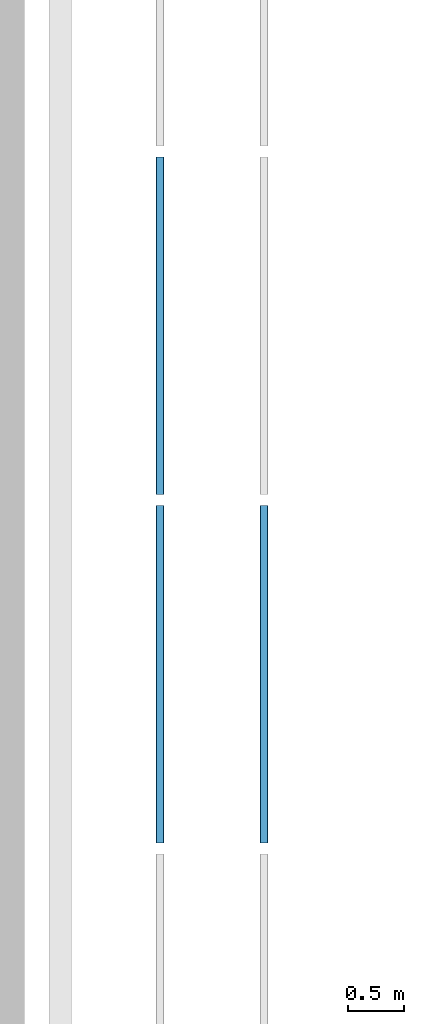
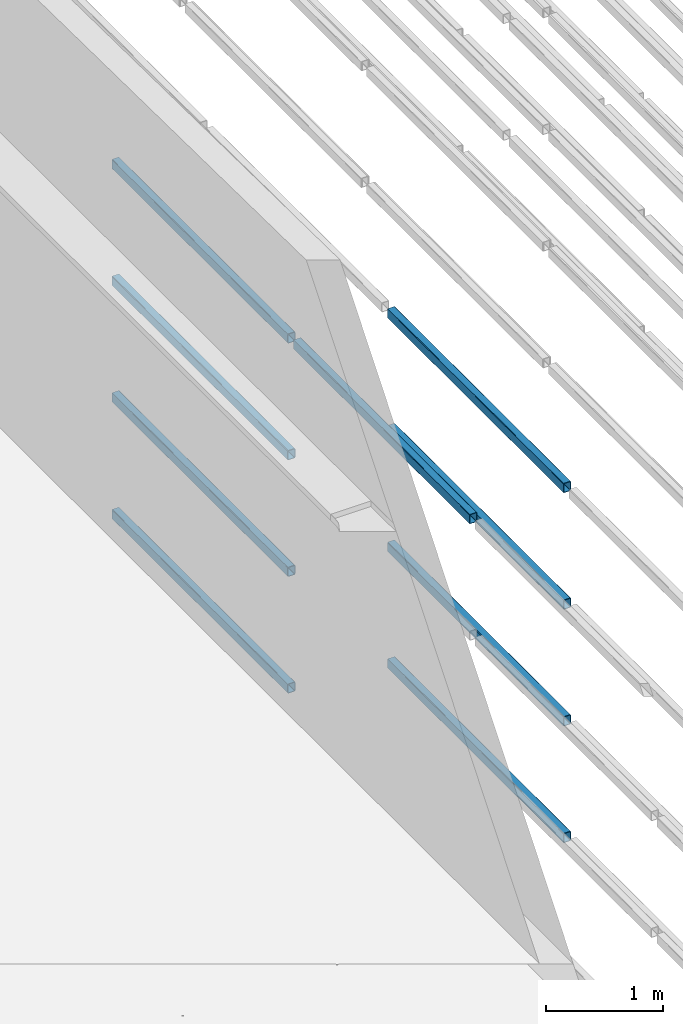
# One storey, part 12 of 290: 9 beams.
"""IFC2X3 building model written with IfcOpenShell, lengths in metres."""

from ifc_helpers import new_model, entity, si_unit, converted_unit, derived_unit, direction, frame, frame_2d, origin, place, context, subcontext, project, spatial, polyline, circle_curve, parameter, trimmed, segment, composite_curve, outline, extrude, material, type_object, element, save


model = new_model("IFC2X3")

# Units and contexts
model_context = context("Model", 3, precision=1e-05, world=origin(), true_north=direction((6.12303176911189e-17, 1.0)))
body_context = subcontext(model_context, "Body", "Model", "MODEL_VIEW")
ifc_project = project(units=[si_unit("LENGTHUNIT", "METRE"), si_unit("AREAUNIT", "SQUARE_METRE"), si_unit("VOLUMEUNIT", "CUBIC_METRE"), converted_unit("PLANEANGLEUNIT", "DEGREE", entity("IfcRatioMeasure", 0.0174532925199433), si_unit("PLANEANGLEUNIT", "RADIAN"), dimensions=[0, 0, 0, 0, 0, 0, 0]), si_unit("MASSUNIT", "GRAM", prefix="KILO"), derived_unit("MASSDENSITYUNIT", [(si_unit("MASSUNIT", "GRAM", prefix="KILO"), 1), (si_unit("LENGTHUNIT", "METRE"), -3)]), derived_unit("MOMENTOFINERTIAUNIT", [(si_unit("LENGTHUNIT", "METRE"), 4)]), si_unit("TIMEUNIT", "SECOND"), si_unit("FREQUENCYUNIT", "HERTZ"), si_unit("THERMODYNAMICTEMPERATUREUNIT", "DEGREE_CELSIUS"), derived_unit("THERMALTRANSMITTANCEUNIT", [(si_unit("MASSUNIT", "GRAM", prefix="KILO"), 1), (si_unit("THERMODYNAMICTEMPERATUREUNIT", "KELVIN"), -1), (si_unit("TIMEUNIT", "SECOND"), -3)]), derived_unit("VOLUMETRICFLOWRATEUNIT", [(si_unit("LENGTHUNIT", "METRE"), 3), (si_unit("TIMEUNIT", "SECOND"), -1)]), si_unit("ELECTRICCURRENTUNIT", "AMPERE"), si_unit("ELECTRICVOLTAGEUNIT", "VOLT"), si_unit("POWERUNIT", "WATT"), si_unit("FORCEUNIT", "NEWTON", prefix="KILO"), si_unit("ILLUMINANCEUNIT", "LUX"), si_unit("LUMINOUSFLUXUNIT", "LUMEN"), si_unit("LUMINOUSINTENSITYUNIT", "CANDELA"), derived_unit("USERDEFINED", [(si_unit("MASSUNIT", "GRAM", prefix="KILO"), -1), (si_unit("LENGTHUNIT", "METRE"), -2), (si_unit("TIMEUNIT", "SECOND"), 3), (si_unit("LUMINOUSFLUXUNIT", "LUMEN"), 1)]), derived_unit("LINEARVELOCITYUNIT", [(si_unit("LENGTHUNIT", "METRE"), 1), (si_unit("TIMEUNIT", "SECOND"), -1)]), si_unit("PRESSUREUNIT", "PASCAL"), derived_unit("USERDEFINED", [(si_unit("LENGTHUNIT", "METRE"), -2), (si_unit("MASSUNIT", "GRAM", prefix="KILO"), 1), (si_unit("TIMEUNIT", "SECOND"), -2)]), derived_unit("LINEARFORCEUNIT", [(si_unit("MASSUNIT", "GRAM", prefix="KILO"), 1), (si_unit("LENGTHUNIT", "METRE"), 1), (si_unit("TIMEUNIT", "SECOND"), -2), (si_unit("LENGTHUNIT", "METRE"), -1)]), derived_unit("PLANARFORCEUNIT", [(si_unit("MASSUNIT", "GRAM", prefix="KILO"), 1), (si_unit("LENGTHUNIT", "METRE"), 1), (si_unit("TIMEUNIT", "SECOND"), -2), (si_unit("LENGTHUNIT", "METRE"), -2)])], contexts=[model_context])

# Site, building, storey
site_placement = place(None, origin())
site = spatial("IfcSite", under=ifc_project, at=site_placement, Name="Default", CompositionType="ELEMENT")
building_placement = place(site_placement, origin())
building = spatial("IfcBuilding", under=site, at=building_placement, CompositionType="ELEMENT")
storey_placement = place(building_placement, frame((0.0, 0.0, 4.0)))
storey = spatial("IfcBuildingStorey", under=building, at=storey_placement, Name="01_OG", CompositionType="ELEMENT", Elevation=4.0)

# Beams
ifc_material = material(Name="Metall - Baustahl S235 blau")
beam_type = type_object("IfcBeamType", Name="RHS Träger (EN 10219-2):RHS 100 x 75 x 5", PredefinedType="NOTDEFINED")
beam_1_placement = place(storey_placement, frame((-206.415111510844, 36.448088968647, 2.445), z_axis=(0.0, 0.0, 1.0), x_axis=(0.0, 1.0, 0.0)))
element("IfcBeam", 1, at=beam_1_placement, inside=storey, type_object=beam_type, material=ifc_material, Name="RHS Träger (EN 10219-2):RHS 100 x 75 x 5", ObjectType="RHS Träger (EN 10219-2):RHS 100 x 75 x 5", context=body_context, shape_type="SweptSolid", body=[
    extrude(outline(composite_curve([segment(trimmed(circle_curve(frame_2d((-0.0274999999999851, -0.0399999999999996), x_axis=(1.0, 0.0)), 0.01), [parameter(180.0)], [parameter(270.0)], True, "PARAMETER"), True, "CONTINUOUS"), segment(polyline([(-0.0274999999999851, -0.0499999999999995), (0.0274999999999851, -0.0499999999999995)]), True, "CONTINUOUS"), segment(trimmed(circle_curve(frame_2d((0.0274999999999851, -0.0399999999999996), x_axis=(1.0, 0.0)), 0.01), [parameter(270.0)], [parameter(5.08888749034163e-14)], True, "PARAMETER"), True, "CONTINUOUS"), segment(polyline([(0.0375000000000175, -0.0399999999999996), (0.0375000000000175, 0.0399999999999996)]), True, "CONTINUOUS"), segment(trimmed(circle_curve(frame_2d((0.0274999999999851, 0.0399999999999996), x_axis=(1.0, 0.0)), 0.01), [parameter(360.0)], [parameter(89.9999999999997)], True, "PARAMETER"), True, "CONTINUOUS"), segment(polyline([(0.0274999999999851, 0.0500000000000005), (-0.0274999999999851, 0.0500000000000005)]), True, "CONTINUOUS"), segment(trimmed(circle_curve(frame_2d((-0.0274999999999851, 0.0399999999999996), x_axis=(1.0, 0.0)), 0.01), [parameter(90.0000000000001)], [parameter(180.0)], True, "PARAMETER"), True, "CONTINUOUS"), segment(polyline([(-0.0374999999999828, 0.0399999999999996), (-0.0374999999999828, -0.0399999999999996)]), True, "CONTINUOUS")], self_intersect=False), holes=[composite_curve([segment(polyline([(0.0274999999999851, -0.0450000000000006), (-0.0274999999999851, -0.0450000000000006)]), True, "CONTINUOUS"), segment(trimmed(circle_curve(frame_2d((-0.0274999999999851, -0.0400000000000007), x_axis=(1.0, 0.0)), 0.005), [parameter(180.0)], [parameter(270.0)], True, "PARAMETER"), False, "CONTINUOUS"), segment(polyline([(-0.0325000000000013, -0.0400000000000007), (-0.0325000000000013, 0.0399999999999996)]), True, "CONTINUOUS"), segment(trimmed(circle_curve(frame_2d((-0.0274999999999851, 0.0399999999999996), x_axis=(1.0, 0.0)), 0.005), [parameter(90.0000000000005)], [parameter(180.0)], True, "PARAMETER"), False, "CONTINUOUS"), segment(polyline([(-0.0274999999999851, 0.0449999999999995), (0.0274999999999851, 0.0449999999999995)]), True, "CONTINUOUS"), segment(trimmed(circle_curve(frame_2d((0.0274999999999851, 0.0399999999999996), x_axis=(1.0, 0.0)), 0.005), [parameter(0.0)], [parameter(90.0000000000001)], True, "PARAMETER"), False, "CONTINUOUS"), segment(polyline([(0.0325000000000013, 0.0399999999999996), (0.0325000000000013, -0.0400000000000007)]), True, "CONTINUOUS"), segment(trimmed(circle_curve(frame_2d((0.0274999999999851, -0.0400000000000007), x_axis=(1.0, 0.0)), 0.005), [parameter(270.0)], [parameter(4.07110999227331e-13)], True, "PARAMETER"), False, "CONTINUOUS")], self_intersect=False)]), frame((0.000100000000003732, 0.0375000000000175, -0.0500000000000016), z_axis=(1.0, 0.0, 0.0), x_axis=(0.0, -1.0, 0.0)), (0.0, 0.0, 1.0), 2.9998),
])
beam_2_placement = place(storey_placement, frame((-205.565111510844, 36.448088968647, -1.2), z_axis=(0.0, 0.0, 1.0), x_axis=(0.0, 1.0, 0.0)))
element("IfcBeam", 2, at=beam_2_placement, inside=storey, type_object=beam_type, material=ifc_material, Name="RHS Träger (EN 10219-2):RHS 100 x 75 x 5", ObjectType="RHS Träger (EN 10219-2):RHS 100 x 75 x 5", context=body_context, shape_type="SweptSolid", body=[
    extrude(outline(composite_curve([segment(polyline([(-0.0400000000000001, -0.0374999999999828), (0.0400000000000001, -0.0374999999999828)]), True, "CONTINUOUS"), segment(trimmed(circle_curve(frame_2d((0.0400000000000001, -0.0274999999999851), x_axis=(0.0, 1.0)), 0.01), [parameter(180.0)], [parameter(270.0)], True, "PARAMETER"), True, "CONTINUOUS"), segment(polyline([(0.05, -0.0274999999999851), (0.05, 0.0274999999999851)]), True, "CONTINUOUS"), segment(trimmed(circle_curve(frame_2d((0.0400000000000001, 0.0274999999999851), x_axis=(0.0, 1.0)), 0.01), [parameter(270.0)], [parameter(4.07110999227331e-13)], True, "PARAMETER"), True, "CONTINUOUS"), segment(polyline([(0.0400000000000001, 0.0375000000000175), (-0.0400000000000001, 0.0375000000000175)]), True, "CONTINUOUS"), segment(trimmed(circle_curve(frame_2d((-0.0400000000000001, 0.0274999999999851), x_axis=(0.0, 1.0)), 0.01), [parameter(360.0)], [parameter(90.0000000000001)], True, "PARAMETER"), True, "CONTINUOUS"), segment(polyline([(-0.05, 0.0274999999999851), (-0.05, -0.0274999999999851)]), True, "CONTINUOUS"), segment(trimmed(circle_curve(frame_2d((-0.0400000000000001, -0.0274999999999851), x_axis=(0.0, 1.0)), 0.01), [parameter(90.0000000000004)], [parameter(180.0)], True, "PARAMETER"), True, "CONTINUOUS")], self_intersect=False), holes=[composite_curve([segment(trimmed(circle_curve(frame_2d((-0.0400000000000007, 0.0274999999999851), x_axis=(0.0, 1.0)), 0.005), [parameter(360.0)], [parameter(89.9999999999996)], True, "PARAMETER"), False, "CONTINUOUS"), segment(polyline([(-0.0400000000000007, 0.0325000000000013), (0.039999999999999, 0.0325000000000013)]), True, "CONTINUOUS"), segment(trimmed(circle_curve(frame_2d((0.039999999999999, 0.0274999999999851), x_axis=(0.0, 1.0)), 0.005), [parameter(270.0)], [parameter(0.0)], True, "PARAMETER"), False, "CONTINUOUS"), segment(polyline([(0.044999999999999, 0.0274999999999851), (0.044999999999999, -0.0274999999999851)]), True, "CONTINUOUS"), segment(trimmed(circle_curve(frame_2d((0.039999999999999, -0.0274999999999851), x_axis=(0.0, 1.0)), 0.005), [parameter(180.0)], [parameter(269.999999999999)], True, "PARAMETER"), False, "CONTINUOUS"), segment(polyline([(0.039999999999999, -0.0325000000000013), (-0.0400000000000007, -0.0325000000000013)]), True, "CONTINUOUS"), segment(trimmed(circle_curve(frame_2d((-0.0400000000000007, -0.0274999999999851), x_axis=(0.0, 1.0)), 0.005), [parameter(90.0000000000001)], [parameter(180.0)], True, "PARAMETER"), False, "CONTINUOUS"), segment(polyline([(-0.0450000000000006, -0.0274999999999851), (-0.0450000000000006, 0.0274999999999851)]), True, "CONTINUOUS")], self_intersect=False)]), frame((0.000100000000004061, -0.0375000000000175, -0.0500000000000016), z_axis=(1.0, 0.0, 0.0), x_axis=(0.0, 0.0, -1.0)), (0.0, 0.0, 1.0), 2.9998),
])
beam_3_placement = place(storey_placement, frame((-205.565111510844, 36.448088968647, 0.0150000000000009), z_axis=(0.0, 0.0, 1.0), x_axis=(0.0, 1.0, 0.0)))
element("IfcBeam", 3, at=beam_3_placement, inside=storey, type_object=beam_type, material=ifc_material, Name="RHS Träger (EN 10219-2):RHS 100 x 75 x 5", ObjectType="RHS Träger (EN 10219-2):RHS 100 x 75 x 5", context=body_context, shape_type="SweptSolid", body=[
    extrude(outline(composite_curve([segment(polyline([(-0.0400000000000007, -0.0374999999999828), (0.0399999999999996, -0.0374999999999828)]), True, "CONTINUOUS"), segment(trimmed(circle_curve(frame_2d((0.0399999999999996, -0.0274999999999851), x_axis=(0.0, 1.0)), 0.01), [parameter(180.0)], [parameter(270.0)], True, "PARAMETER"), True, "CONTINUOUS"), segment(polyline([(0.0499999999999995, -0.0274999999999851), (0.0499999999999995, 0.0274999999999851)]), True, "CONTINUOUS"), segment(trimmed(circle_curve(frame_2d((0.0399999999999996, 0.0274999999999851), x_axis=(0.0, 1.0)), 0.01), [parameter(270.0)], [parameter(4.07110999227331e-13)], True, "PARAMETER"), True, "CONTINUOUS"), segment(polyline([(0.0399999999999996, 0.0375000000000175), (-0.0400000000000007, 0.0375000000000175)]), True, "CONTINUOUS"), segment(trimmed(circle_curve(frame_2d((-0.0400000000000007, 0.0274999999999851), x_axis=(0.0, 1.0)), 0.01), [parameter(360.0)], [parameter(90.0000000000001)], True, "PARAMETER"), True, "CONTINUOUS"), segment(polyline([(-0.0500000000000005, 0.0274999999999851), (-0.0500000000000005, -0.0274999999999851)]), True, "CONTINUOUS"), segment(trimmed(circle_curve(frame_2d((-0.0400000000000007, -0.0274999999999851), x_axis=(0.0, 1.0)), 0.01), [parameter(90.0000000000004)], [parameter(180.0)], True, "PARAMETER"), True, "CONTINUOUS")], self_intersect=False), holes=[composite_curve([segment(trimmed(circle_curve(frame_2d((-0.0400000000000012, 0.0274999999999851), x_axis=(0.0, 1.0)), 0.005), [parameter(360.0)], [parameter(89.9999999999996)], True, "PARAMETER"), False, "CONTINUOUS"), segment(polyline([(-0.0400000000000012, 0.0325000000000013), (0.0399999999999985, 0.0325000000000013)]), True, "CONTINUOUS"), segment(trimmed(circle_curve(frame_2d((0.0399999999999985, 0.0274999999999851), x_axis=(0.0, 1.0)), 0.005), [parameter(270.0)], [parameter(0.0)], True, "PARAMETER"), False, "CONTINUOUS"), segment(polyline([(0.0449999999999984, 0.0274999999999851), (0.0449999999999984, -0.0274999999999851)]), True, "CONTINUOUS"), segment(trimmed(circle_curve(frame_2d((0.0399999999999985, -0.0274999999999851), x_axis=(0.0, 1.0)), 0.005), [parameter(180.0)], [parameter(269.999999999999)], True, "PARAMETER"), False, "CONTINUOUS"), segment(polyline([(0.0399999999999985, -0.0325000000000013), (-0.0400000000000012, -0.0325000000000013)]), True, "CONTINUOUS"), segment(trimmed(circle_curve(frame_2d((-0.0400000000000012, -0.0274999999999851), x_axis=(0.0, 1.0)), 0.005), [parameter(90.0000000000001)], [parameter(180.0)], True, "PARAMETER"), False, "CONTINUOUS"), segment(polyline([(-0.0450000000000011, -0.0274999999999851), (-0.0450000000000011, 0.0274999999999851)]), True, "CONTINUOUS")], self_intersect=False)]), frame((0.000100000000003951, -0.0375000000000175, -0.0500000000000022), z_axis=(1.0, 0.0, 0.0), x_axis=(0.0, 0.0, -1.0)), (0.0, 0.0, 1.0), 2.9998),
])
beam_4_placement = place(storey_placement, frame((-205.565111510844, 36.448088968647, 1.23), z_axis=(0.0, 0.0, 1.0), x_axis=(0.0, 1.0, 0.0)))
element("IfcBeam", 4, at=beam_4_placement, inside=storey, type_object=beam_type, material=ifc_material, Name="RHS Träger (EN 10219-2):RHS 100 x 75 x 5", ObjectType="RHS Träger (EN 10219-2):RHS 100 x 75 x 5", context=body_context, shape_type="SweptSolid", body=[
    extrude(outline(composite_curve([segment(polyline([(-0.0399999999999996, -0.0374999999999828), (0.0399999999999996, -0.0374999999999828)]), True, "CONTINUOUS"), segment(trimmed(circle_curve(frame_2d((0.0399999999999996, -0.0274999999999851), x_axis=(0.0, 1.0)), 0.01), [parameter(180.0)], [parameter(270.0)], True, "PARAMETER"), True, "CONTINUOUS"), segment(polyline([(0.0500000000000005, -0.0274999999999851), (0.0500000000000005, 0.0274999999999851)]), True, "CONTINUOUS"), segment(trimmed(circle_curve(frame_2d((0.0399999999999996, 0.0274999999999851), x_axis=(0.0, 1.0)), 0.01), [parameter(270.0)], [parameter(4.07110999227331e-13)], True, "PARAMETER"), True, "CONTINUOUS"), segment(polyline([(0.0399999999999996, 0.0375000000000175), (-0.0399999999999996, 0.0375000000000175)]), True, "CONTINUOUS"), segment(trimmed(circle_curve(frame_2d((-0.0399999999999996, 0.0274999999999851), x_axis=(0.0, 1.0)), 0.01), [parameter(360.0)], [parameter(90.0000000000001)], True, "PARAMETER"), True, "CONTINUOUS"), segment(polyline([(-0.0499999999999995, 0.0274999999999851), (-0.0499999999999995, -0.0274999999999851)]), True, "CONTINUOUS"), segment(trimmed(circle_curve(frame_2d((-0.0399999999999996, -0.0274999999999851), x_axis=(0.0, 1.0)), 0.01), [parameter(90.0000000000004)], [parameter(180.0)], True, "PARAMETER"), True, "CONTINUOUS")], self_intersect=False), holes=[composite_curve([segment(trimmed(circle_curve(frame_2d((-0.0400000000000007, 0.0274999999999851), x_axis=(0.0, 1.0)), 0.005), [parameter(360.0)], [parameter(89.9999999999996)], True, "PARAMETER"), False, "CONTINUOUS"), segment(polyline([(-0.0400000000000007, 0.0325000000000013), (0.0399999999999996, 0.0325000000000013)]), True, "CONTINUOUS"), segment(trimmed(circle_curve(frame_2d((0.0399999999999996, 0.0274999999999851), x_axis=(0.0, 1.0)), 0.005), [parameter(270.0)], [parameter(0.0)], True, "PARAMETER"), False, "CONTINUOUS"), segment(polyline([(0.0449999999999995, 0.0274999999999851), (0.0449999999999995, -0.0274999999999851)]), True, "CONTINUOUS"), segment(trimmed(circle_curve(frame_2d((0.0399999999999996, -0.0274999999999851), x_axis=(0.0, 1.0)), 0.005), [parameter(180.0)], [parameter(269.999999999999)], True, "PARAMETER"), False, "CONTINUOUS"), segment(polyline([(0.0399999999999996, -0.0325000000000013), (-0.0400000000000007, -0.0325000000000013)]), True, "CONTINUOUS"), segment(trimmed(circle_curve(frame_2d((-0.0400000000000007, -0.0274999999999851), x_axis=(0.0, 1.0)), 0.005), [parameter(90.0000000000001)], [parameter(180.0)], True, "PARAMETER"), False, "CONTINUOUS"), segment(polyline([(-0.0450000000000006, -0.0274999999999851), (-0.0450000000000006, 0.0274999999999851)]), True, "CONTINUOUS")], self_intersect=False)]), frame((0.000100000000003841, -0.0375000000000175, -0.0500000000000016), z_axis=(1.0, 0.0, 0.0), x_axis=(0.0, 0.0, -1.0)), (0.0, 0.0, 1.0), 2.9998),
])
beam_5_placement = place(storey_placement, frame((-205.565111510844, 36.448088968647, 2.445), z_axis=(0.0, 0.0, 1.0), x_axis=(0.0, 1.0, 0.0)))
element("IfcBeam", 5, at=beam_5_placement, inside=storey, type_object=beam_type, material=ifc_material, Name="RHS Träger (EN 10219-2):RHS 100 x 75 x 5", ObjectType="RHS Träger (EN 10219-2):RHS 100 x 75 x 5", context=body_context, shape_type="SweptSolid", body=[
    extrude(outline(composite_curve([segment(polyline([(-0.0399999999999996, -0.0374999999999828), (0.0399999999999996, -0.0374999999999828)]), True, "CONTINUOUS"), segment(trimmed(circle_curve(frame_2d((0.0399999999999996, -0.0274999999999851), x_axis=(0.0, 1.0)), 0.01), [parameter(180.0)], [parameter(270.0)], True, "PARAMETER"), True, "CONTINUOUS"), segment(polyline([(0.0500000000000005, -0.0274999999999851), (0.0500000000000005, 0.0274999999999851)]), True, "CONTINUOUS"), segment(trimmed(circle_curve(frame_2d((0.0399999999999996, 0.0274999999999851), x_axis=(0.0, 1.0)), 0.01), [parameter(270.0)], [parameter(4.07110999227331e-13)], True, "PARAMETER"), True, "CONTINUOUS"), segment(polyline([(0.0399999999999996, 0.0375000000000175), (-0.0399999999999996, 0.0375000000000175)]), True, "CONTINUOUS"), segment(trimmed(circle_curve(frame_2d((-0.0399999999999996, 0.0274999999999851), x_axis=(0.0, 1.0)), 0.01), [parameter(360.0)], [parameter(90.0000000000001)], True, "PARAMETER"), True, "CONTINUOUS"), segment(polyline([(-0.0499999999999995, 0.0274999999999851), (-0.0499999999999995, -0.0274999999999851)]), True, "CONTINUOUS"), segment(trimmed(circle_curve(frame_2d((-0.0399999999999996, -0.0274999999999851), x_axis=(0.0, 1.0)), 0.01), [parameter(90.0000000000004)], [parameter(180.0)], True, "PARAMETER"), True, "CONTINUOUS")], self_intersect=False), holes=[composite_curve([segment(trimmed(circle_curve(frame_2d((-0.0400000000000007, 0.0274999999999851), x_axis=(0.0, 1.0)), 0.005), [parameter(360.0)], [parameter(89.9999999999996)], True, "PARAMETER"), False, "CONTINUOUS"), segment(polyline([(-0.0400000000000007, 0.0325000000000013), (0.0399999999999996, 0.0325000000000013)]), True, "CONTINUOUS"), segment(trimmed(circle_curve(frame_2d((0.0399999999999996, 0.0274999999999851), x_axis=(0.0, 1.0)), 0.005), [parameter(270.0)], [parameter(0.0)], True, "PARAMETER"), False, "CONTINUOUS"), segment(polyline([(0.0449999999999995, 0.0274999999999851), (0.0449999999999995, -0.0274999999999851)]), True, "CONTINUOUS"), segment(trimmed(circle_curve(frame_2d((0.0399999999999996, -0.0274999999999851), x_axis=(0.0, 1.0)), 0.005), [parameter(180.0)], [parameter(269.999999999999)], True, "PARAMETER"), False, "CONTINUOUS"), segment(polyline([(0.0399999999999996, -0.0325000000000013), (-0.0400000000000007, -0.0325000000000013)]), True, "CONTINUOUS"), segment(trimmed(circle_curve(frame_2d((-0.0400000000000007, -0.0274999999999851), x_axis=(0.0, 1.0)), 0.005), [parameter(90.0000000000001)], [parameter(180.0)], True, "PARAMETER"), False, "CONTINUOUS"), segment(polyline([(-0.0450000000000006, -0.0274999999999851), (-0.0450000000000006, 0.0274999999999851)]), True, "CONTINUOUS")], self_intersect=False)]), frame((0.000100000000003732, -0.0375000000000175, -0.0500000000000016), z_axis=(1.0, 0.0, 0.0), x_axis=(0.0, 0.0, -1.0)), (0.0, 0.0, 1.0), 2.9998),
])
beam_6_placement = place(storey_placement, frame((-206.415111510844, 39.548088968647, -1.2), z_axis=(0.0, 0.0, 1.0), x_axis=(0.0, 1.0, 0.0)))
element("IfcBeam", 6, at=beam_6_placement, inside=storey, type_object=beam_type, material=ifc_material, Name="RHS Träger (EN 10219-2):RHS 100 x 75 x 5", ObjectType="RHS Träger (EN 10219-2):RHS 100 x 75 x 5", context=body_context, shape_type="SweptSolid", body=[
    extrude(outline(composite_curve([segment(trimmed(circle_curve(frame_2d((-0.0274999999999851, -0.0400000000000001), x_axis=(1.0, 0.0)), 0.01), [parameter(180.0)], [parameter(270.0)], True, "PARAMETER"), True, "CONTINUOUS"), segment(polyline([(-0.0274999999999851, -0.05), (0.0274999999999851, -0.05)]), True, "CONTINUOUS"), segment(trimmed(circle_curve(frame_2d((0.0274999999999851, -0.0400000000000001), x_axis=(1.0, 0.0)), 0.01), [parameter(270.0)], [parameter(5.08888749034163e-14)], True, "PARAMETER"), True, "CONTINUOUS"), segment(polyline([(0.0375000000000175, -0.0400000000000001), (0.0375000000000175, 0.0400000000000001)]), True, "CONTINUOUS"), segment(trimmed(circle_curve(frame_2d((0.0274999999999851, 0.0400000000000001), x_axis=(1.0, 0.0)), 0.01), [parameter(360.0)], [parameter(89.9999999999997)], True, "PARAMETER"), True, "CONTINUOUS"), segment(polyline([(0.0274999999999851, 0.05), (-0.0274999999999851, 0.05)]), True, "CONTINUOUS"), segment(trimmed(circle_curve(frame_2d((-0.0274999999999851, 0.0400000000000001), x_axis=(1.0, 0.0)), 0.01), [parameter(90.0000000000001)], [parameter(180.0)], True, "PARAMETER"), True, "CONTINUOUS"), segment(polyline([(-0.0374999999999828, 0.0400000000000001), (-0.0374999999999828, -0.0400000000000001)]), True, "CONTINUOUS")], self_intersect=False), holes=[composite_curve([segment(polyline([(0.0274999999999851, -0.0450000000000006), (-0.0274999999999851, -0.0450000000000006)]), True, "CONTINUOUS"), segment(trimmed(circle_curve(frame_2d((-0.0274999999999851, -0.0400000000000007), x_axis=(1.0, 0.0)), 0.005), [parameter(180.0)], [parameter(270.0)], True, "PARAMETER"), False, "CONTINUOUS"), segment(polyline([(-0.0325000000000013, -0.0400000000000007), (-0.0325000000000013, 0.039999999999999)]), True, "CONTINUOUS"), segment(trimmed(circle_curve(frame_2d((-0.0274999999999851, 0.039999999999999), x_axis=(1.0, 0.0)), 0.005), [parameter(90.0000000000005)], [parameter(180.0)], True, "PARAMETER"), False, "CONTINUOUS"), segment(polyline([(-0.0274999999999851, 0.044999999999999), (0.0274999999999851, 0.044999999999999)]), True, "CONTINUOUS"), segment(trimmed(circle_curve(frame_2d((0.0274999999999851, 0.039999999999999), x_axis=(1.0, 0.0)), 0.005), [parameter(0.0)], [parameter(90.0000000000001)], True, "PARAMETER"), False, "CONTINUOUS"), segment(polyline([(0.0325000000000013, 0.039999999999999), (0.0325000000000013, -0.0400000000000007)]), True, "CONTINUOUS"), segment(trimmed(circle_curve(frame_2d((0.0274999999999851, -0.0400000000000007), x_axis=(1.0, 0.0)), 0.005), [parameter(270.0)], [parameter(4.07110999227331e-13)], True, "PARAMETER"), False, "CONTINUOUS")], self_intersect=False)]), frame((0.000100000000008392, 0.0375000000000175, -0.0500000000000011), z_axis=(1.0, 0.0, 0.0), x_axis=(0.0, -1.0, 0.0)), (0.0, 0.0, 1.0), 2.99979999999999),
])
beam_7_placement = place(storey_placement, frame((-206.415111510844, 39.548088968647, 0.0150000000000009), z_axis=(0.0, 0.0, 1.0), x_axis=(0.0, 1.0, 0.0)))
element("IfcBeam", 7, at=beam_7_placement, inside=storey, type_object=beam_type, material=ifc_material, Name="RHS Träger (EN 10219-2):RHS 100 x 75 x 5", ObjectType="RHS Träger (EN 10219-2):RHS 100 x 75 x 5", context=body_context, shape_type="SweptSolid", body=[
    extrude(outline(composite_curve([segment(trimmed(circle_curve(frame_2d((-0.0274999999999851, -0.0400000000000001), x_axis=(1.0, 0.0)), 0.01), [parameter(180.0)], [parameter(270.0)], True, "PARAMETER"), True, "CONTINUOUS"), segment(polyline([(-0.0274999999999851, -0.05), (0.0274999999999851, -0.05)]), True, "CONTINUOUS"), segment(trimmed(circle_curve(frame_2d((0.0274999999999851, -0.0400000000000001), x_axis=(1.0, 0.0)), 0.01), [parameter(270.0)], [parameter(5.08888749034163e-14)], True, "PARAMETER"), True, "CONTINUOUS"), segment(polyline([(0.0375000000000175, -0.0400000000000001), (0.0375000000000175, 0.0400000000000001)]), True, "CONTINUOUS"), segment(trimmed(circle_curve(frame_2d((0.0274999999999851, 0.0400000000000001), x_axis=(1.0, 0.0)), 0.01), [parameter(360.0)], [parameter(89.9999999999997)], True, "PARAMETER"), True, "CONTINUOUS"), segment(polyline([(0.0274999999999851, 0.05), (-0.0274999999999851, 0.05)]), True, "CONTINUOUS"), segment(trimmed(circle_curve(frame_2d((-0.0274999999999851, 0.0400000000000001), x_axis=(1.0, 0.0)), 0.01), [parameter(90.0000000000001)], [parameter(180.0)], True, "PARAMETER"), True, "CONTINUOUS"), segment(polyline([(-0.0374999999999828, 0.0400000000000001), (-0.0374999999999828, -0.0400000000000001)]), True, "CONTINUOUS")], self_intersect=False), holes=[composite_curve([segment(polyline([(0.0274999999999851, -0.0450000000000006), (-0.0274999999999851, -0.0450000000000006)]), True, "CONTINUOUS"), segment(trimmed(circle_curve(frame_2d((-0.0274999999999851, -0.0400000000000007), x_axis=(1.0, 0.0)), 0.005), [parameter(180.0)], [parameter(270.0)], True, "PARAMETER"), False, "CONTINUOUS"), segment(polyline([(-0.0325000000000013, -0.0400000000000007), (-0.0325000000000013, 0.039999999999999)]), True, "CONTINUOUS"), segment(trimmed(circle_curve(frame_2d((-0.0274999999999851, 0.039999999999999), x_axis=(1.0, 0.0)), 0.005), [parameter(90.0000000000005)], [parameter(180.0)], True, "PARAMETER"), False, "CONTINUOUS"), segment(polyline([(-0.0274999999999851, 0.044999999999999), (0.0274999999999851, 0.044999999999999)]), True, "CONTINUOUS"), segment(trimmed(circle_curve(frame_2d((0.0274999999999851, 0.039999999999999), x_axis=(1.0, 0.0)), 0.005), [parameter(0.0)], [parameter(90.0000000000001)], True, "PARAMETER"), False, "CONTINUOUS"), segment(polyline([(0.0325000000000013, 0.039999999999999), (0.0325000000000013, -0.0400000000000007)]), True, "CONTINUOUS"), segment(trimmed(circle_curve(frame_2d((0.0274999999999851, -0.0400000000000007), x_axis=(1.0, 0.0)), 0.005), [parameter(270.0)], [parameter(4.07110999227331e-13)], True, "PARAMETER"), False, "CONTINUOUS")], self_intersect=False)]), frame((0.000100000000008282, 0.0375000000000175, -0.0500000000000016), z_axis=(1.0, 0.0, 0.0), x_axis=(0.0, -1.0, 0.0)), (0.0, 0.0, 1.0), 2.99979999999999),
])
beam_8_placement = place(storey_placement, frame((-206.415111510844, 39.548088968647, 1.23), z_axis=(0.0, 0.0, 1.0), x_axis=(0.0, 1.0, 0.0)))
element("IfcBeam", 8, at=beam_8_placement, inside=storey, type_object=beam_type, material=ifc_material, Name="RHS Träger (EN 10219-2):RHS 100 x 75 x 5", ObjectType="RHS Träger (EN 10219-2):RHS 100 x 75 x 5", context=body_context, shape_type="SweptSolid", body=[
    extrude(outline(composite_curve([segment(trimmed(circle_curve(frame_2d((-0.0274999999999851, -0.0399999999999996), x_axis=(1.0, 0.0)), 0.01), [parameter(180.0)], [parameter(270.0)], True, "PARAMETER"), True, "CONTINUOUS"), segment(polyline([(-0.0274999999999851, -0.0499999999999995), (0.0274999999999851, -0.0499999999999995)]), True, "CONTINUOUS"), segment(trimmed(circle_curve(frame_2d((0.0274999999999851, -0.0399999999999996), x_axis=(1.0, 0.0)), 0.01), [parameter(270.0)], [parameter(5.08888749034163e-14)], True, "PARAMETER"), True, "CONTINUOUS"), segment(polyline([(0.0375000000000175, -0.0399999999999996), (0.0375000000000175, 0.0399999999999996)]), True, "CONTINUOUS"), segment(trimmed(circle_curve(frame_2d((0.0274999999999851, 0.0399999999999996), x_axis=(1.0, 0.0)), 0.01), [parameter(360.0)], [parameter(89.9999999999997)], True, "PARAMETER"), True, "CONTINUOUS"), segment(polyline([(0.0274999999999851, 0.0500000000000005), (-0.0274999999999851, 0.0500000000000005)]), True, "CONTINUOUS"), segment(trimmed(circle_curve(frame_2d((-0.0274999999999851, 0.0399999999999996), x_axis=(1.0, 0.0)), 0.01), [parameter(90.0000000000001)], [parameter(180.0)], True, "PARAMETER"), True, "CONTINUOUS"), segment(polyline([(-0.0374999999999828, 0.0399999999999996), (-0.0374999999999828, -0.0399999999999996)]), True, "CONTINUOUS")], self_intersect=False), holes=[composite_curve([segment(polyline([(0.0274999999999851, -0.0450000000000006), (-0.0274999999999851, -0.0450000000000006)]), True, "CONTINUOUS"), segment(trimmed(circle_curve(frame_2d((-0.0274999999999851, -0.0400000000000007), x_axis=(1.0, 0.0)), 0.005), [parameter(180.0)], [parameter(270.0)], True, "PARAMETER"), False, "CONTINUOUS"), segment(polyline([(-0.0325000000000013, -0.0400000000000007), (-0.0325000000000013, 0.0399999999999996)]), True, "CONTINUOUS"), segment(trimmed(circle_curve(frame_2d((-0.0274999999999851, 0.0399999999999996), x_axis=(1.0, 0.0)), 0.005), [parameter(90.0000000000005)], [parameter(180.0)], True, "PARAMETER"), False, "CONTINUOUS"), segment(polyline([(-0.0274999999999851, 0.0449999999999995), (0.0274999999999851, 0.0449999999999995)]), True, "CONTINUOUS"), segment(trimmed(circle_curve(frame_2d((0.0274999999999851, 0.0399999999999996), x_axis=(1.0, 0.0)), 0.005), [parameter(0.0)], [parameter(90.0000000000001)], True, "PARAMETER"), False, "CONTINUOUS"), segment(polyline([(0.0325000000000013, 0.0399999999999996), (0.0325000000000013, -0.0400000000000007)]), True, "CONTINUOUS"), segment(trimmed(circle_curve(frame_2d((0.0274999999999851, -0.0400000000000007), x_axis=(1.0, 0.0)), 0.005), [parameter(270.0)], [parameter(4.07110999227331e-13)], True, "PARAMETER"), False, "CONTINUOUS")], self_intersect=False)]), frame((0.000100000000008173, 0.0375000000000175, -0.0500000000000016), z_axis=(1.0, 0.0, 0.0), x_axis=(0.0, -1.0, 0.0)), (0.0, 0.0, 1.0), 2.99979999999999),
])
beam_9_placement = place(storey_placement, frame((-206.415111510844, 39.548088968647, 2.445), z_axis=(0.0, 0.0, 1.0), x_axis=(0.0, 1.0, 0.0)))
element("IfcBeam", 9, at=beam_9_placement, inside=storey, type_object=beam_type, material=ifc_material, Name="RHS Träger (EN 10219-2):RHS 100 x 75 x 5", ObjectType="RHS Träger (EN 10219-2):RHS 100 x 75 x 5", context=body_context, shape_type="SweptSolid", body=[
    extrude(outline(composite_curve([segment(trimmed(circle_curve(frame_2d((-0.0274999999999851, -0.0399999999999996), x_axis=(1.0, 0.0)), 0.01), [parameter(180.0)], [parameter(270.0)], True, "PARAMETER"), True, "CONTINUOUS"), segment(polyline([(-0.0274999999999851, -0.0499999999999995), (0.0274999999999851, -0.0499999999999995)]), True, "CONTINUOUS"), segment(trimmed(circle_curve(frame_2d((0.0274999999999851, -0.0399999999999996), x_axis=(1.0, 0.0)), 0.01), [parameter(270.0)], [parameter(5.08888749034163e-14)], True, "PARAMETER"), True, "CONTINUOUS"), segment(polyline([(0.0375000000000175, -0.0399999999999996), (0.0375000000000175, 0.0399999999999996)]), True, "CONTINUOUS"), segment(trimmed(circle_curve(frame_2d((0.0274999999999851, 0.0399999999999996), x_axis=(1.0, 0.0)), 0.01), [parameter(360.0)], [parameter(89.9999999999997)], True, "PARAMETER"), True, "CONTINUOUS"), segment(polyline([(0.0274999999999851, 0.0500000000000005), (-0.0274999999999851, 0.0500000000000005)]), True, "CONTINUOUS"), segment(trimmed(circle_curve(frame_2d((-0.0274999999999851, 0.0399999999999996), x_axis=(1.0, 0.0)), 0.01), [parameter(90.0000000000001)], [parameter(180.0)], True, "PARAMETER"), True, "CONTINUOUS"), segment(polyline([(-0.0374999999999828, 0.0399999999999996), (-0.0374999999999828, -0.0399999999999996)]), True, "CONTINUOUS")], self_intersect=False), holes=[composite_curve([segment(polyline([(0.0274999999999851, -0.0450000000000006), (-0.0274999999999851, -0.0450000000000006)]), True, "CONTINUOUS"), segment(trimmed(circle_curve(frame_2d((-0.0274999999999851, -0.0400000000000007), x_axis=(1.0, 0.0)), 0.005), [parameter(180.0)], [parameter(270.0)], True, "PARAMETER"), False, "CONTINUOUS"), segment(polyline([(-0.0325000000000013, -0.0400000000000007), (-0.0325000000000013, 0.0399999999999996)]), True, "CONTINUOUS"), segment(trimmed(circle_curve(frame_2d((-0.0274999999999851, 0.0399999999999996), x_axis=(1.0, 0.0)), 0.005), [parameter(90.0000000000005)], [parameter(180.0)], True, "PARAMETER"), False, "CONTINUOUS"), segment(polyline([(-0.0274999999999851, 0.0449999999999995), (0.0274999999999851, 0.0449999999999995)]), True, "CONTINUOUS"), segment(trimmed(circle_curve(frame_2d((0.0274999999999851, 0.0399999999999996), x_axis=(1.0, 0.0)), 0.005), [parameter(0.0)], [parameter(90.0000000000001)], True, "PARAMETER"), False, "CONTINUOUS"), segment(polyline([(0.0325000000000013, 0.0399999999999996), (0.0325000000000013, -0.0400000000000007)]), True, "CONTINUOUS"), segment(trimmed(circle_curve(frame_2d((0.0274999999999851, -0.0400000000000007), x_axis=(1.0, 0.0)), 0.005), [parameter(270.0)], [parameter(4.07110999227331e-13)], True, "PARAMETER"), False, "CONTINUOUS")], self_intersect=False)]), frame((0.000100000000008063, 0.0375000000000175, -0.0500000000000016), z_axis=(1.0, 0.0, 0.0), x_axis=(0.0, -1.0, 0.0)), (0.0, 0.0, 1.0), 2.99979999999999),
])

save(model, "model.ifc")
